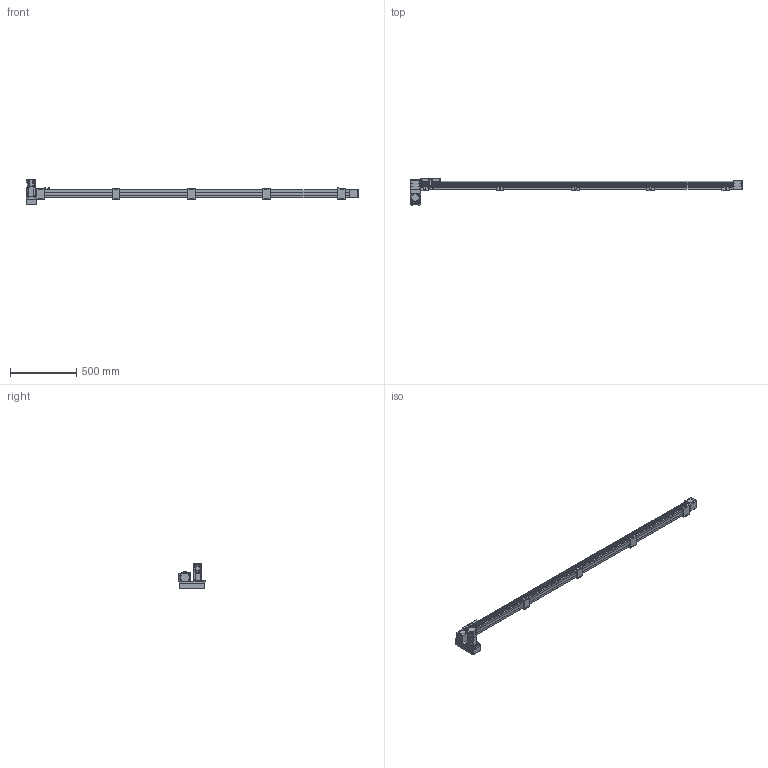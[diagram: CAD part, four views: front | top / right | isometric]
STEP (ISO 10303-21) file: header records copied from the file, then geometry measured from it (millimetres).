
FILE_DESCRIPTION(/* description */ ('STEP AP214'),/* implementation_level */ '2;1');
FILE_NAME(/* name */ 'SK60-P13-S2200-LD-T40-C1-N(0)',/* time_stamp */ '2023-04-06T04:39:46+02:00',/* author */ ('License CC BY-ND 4.0'),/* organization */ ('CADENAS'),/* preprocessor_version */ 'ST-DEVELOPER v19.3',/* originating_system */ 'PARTsolutions',/* authorisation */ ' ');
FILE_SCHEMA (('AUTOMOTIVE_DESIGN {1 0 10303 214 3 1 1}'));
Length unit declared in the file: millimetre
Products named in the file (10): SK60-P13-S2200-LD-T40-C1-N(0); PSC140-sensor; SK60-S450_seat; SK60-S450-BL-C1_slider; SK60_body3; SK60_body6; SK60-BL_body2; T40-p1; SK60-LD_fb; SK60-S2200-LD-C1_body
Assembly tree (19 placements, depth 2):
  SK60-P13-S2200-LD-T40-C1-N(0)
    PSC140-sensor  x3
    SK60-S450_seat  x5
    SK60-S450-BL-C1_slider
    SK60_body3  x3
    SK60_body6  x2
    SK60-BL_body2  x2
    T40-p1
    SK60-LD_fb
    SK60-S2200-LD-C1_body
Bounding box: 2505.5 x 199 x 189.7 mm (x, y, z)
Volume: 9716652.1 mm3; surface area: 1157243 mm2
Topology: 19 solids, 19 shells, 942 faces, 2342 edges, 1541 vertices
Faces by surface type: plane 596, cylinder 310, cone 34, torus 2
Full cylindrical faces by diameter (mm): 2.8 x3, 3.3 x4, 4 x2, 4.5 x30, 4.6 x3, 4.917 x28, 5 x6, 5.478 x4, 5.5 x31, 6.5 x10, 7 x2, 8 x4, 8.5 x4, 9.988 x4, 10 x20, 14 x1, 47 x3, 50 x2
Entity records: 18679 total; most frequent: DIRECTION 3190, CARTESIAN_POINT 3153, ORIENTED_EDGE 2940, EDGE_CURVE 1470, AXIS2_PLACEMENT_3D 1071, LINE 1048, VECTOR 1048, VERTEX_POINT 1034
